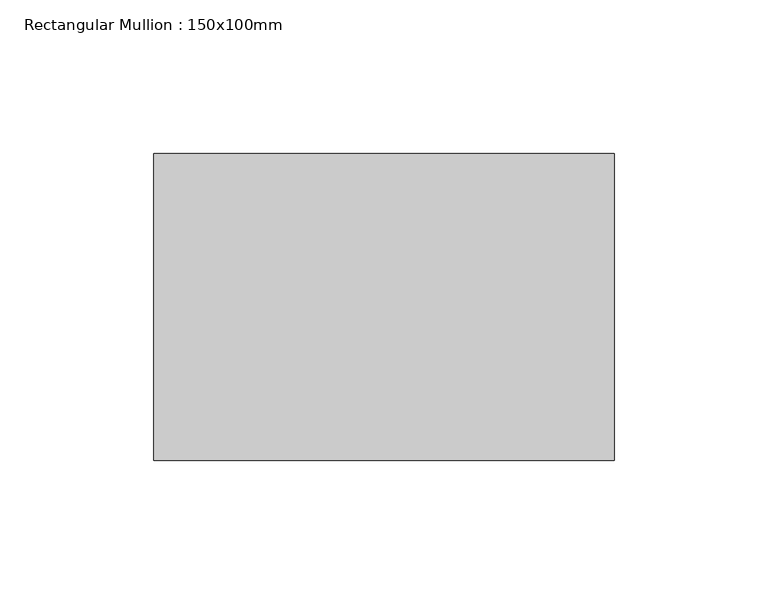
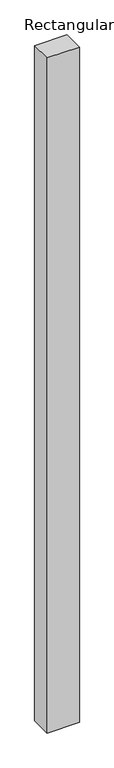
"""IFC4 building model written with IfcOpenShell, lengths in millimetres: member geometry, Rectangular Mullion : 150x100mm."""

from ifc_helpers import new_model, si_unit, frame, origin, place, context, project, spatial, polyline, outline, extrude, source, transform, mapped, element, save


def rectangular_mullion_150x100mm_a19b4a55(model_context):
    return source(origin(), model_context, "Body", "SweptSolid", [
        extrude(outline(polyline([(75.0, 50.0), (75.0, -50.0), (-75.0, -50.0), (-75.0, 50.0), (75.0, 50.0)])), frame((0.0, 0.0, -3320.0), z_axis=(0.0, 0.0, 1.0), x_axis=(1.0, 0.0, 0.0)), (0.0, 0.0, 1.0), 3320.0),
    ])


if __name__ == "__main__":
    model = new_model("IFC4")
    model_context = context("Model", 3, world=origin())
    ifc_project = project(units=[si_unit("LENGTHUNIT", "METRE", prefix="MILLI")], contexts=[model_context])
    site = spatial("IfcSite", under=ifc_project)
    building = spatial("IfcBuilding", under=site)
    placement = place(None, origin())
    rectangular_mullion_150x100mm_shape = rectangular_mullion_150x100mm_a19b4a55(model_context)
    element("IfcMember", 1, ObjectType="Rectangular Mullion : 150x100mm", at=placement, inside=building, context=model_context, shape_type="MappedRepresentation", body=[
        mapped(rectangular_mullion_150x100mm_shape, transform((0.0, 0.0, 0.0), x_axis=(1.0, 0.0, 0.0), y_axis=(0.0, 1.0, 0.0), z_axis=(0.0, 0.0, 1.0))),
    ])
    save(model, "model.ifc")
